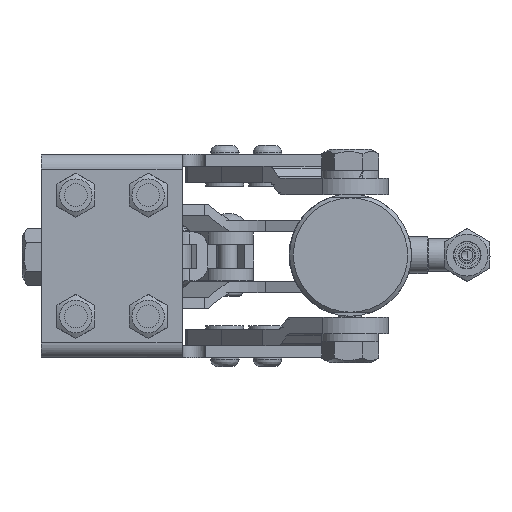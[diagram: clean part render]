
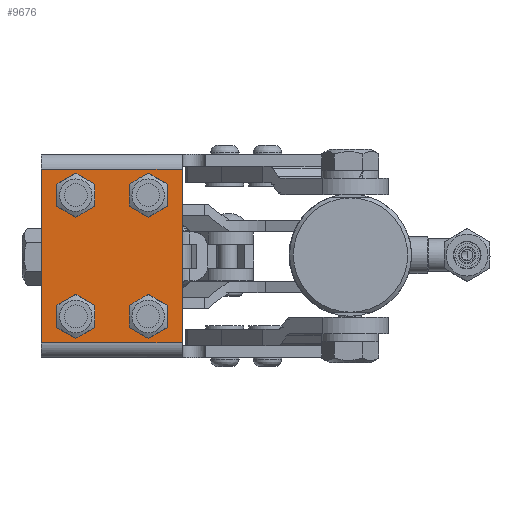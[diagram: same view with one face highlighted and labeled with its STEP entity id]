
A CAD part, front view. The second image highlights one B-rep face of the part: STEP entity #9676.
In plain terms, the highlighted planar face has unit normal (0, -1, 0).
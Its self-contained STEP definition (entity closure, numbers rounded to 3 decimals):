
#583=FACE_BOUND('',#2161,.T.);
#584=FACE_BOUND('',#2162,.T.);
#585=FACE_BOUND('',#2163,.T.);
#586=FACE_BOUND('',#2164,.T.);
#729=CIRCLE('',#10773,3.5);
#731=CIRCLE('',#10776,3.5);
#733=CIRCLE('',#10779,3.5);
#735=CIRCLE('',#10782,3.5);
#1256=PLANE('',#10855);
#1580=FACE_OUTER_BOUND('',#2160,.T.);
#2160=EDGE_LOOP('',(#7048,#7049,#7050,#7051));
#2161=EDGE_LOOP('',(#7052));
#2162=EDGE_LOOP('',(#7053));
#2163=EDGE_LOOP('',(#7054));
#2164=EDGE_LOOP('',(#7055));
#2814=LINE('',#15228,#3548);
#2816=LINE('',#15234,#3550);
#2821=LINE('',#15262,#3555);
#2823=LINE('',#15270,#3557);
#3548=VECTOR('',#12071,10.);
#3550=VECTOR('',#12077,10.);
#3555=VECTOR('',#12098,10.);
#3557=VECTOR('',#12102,10.);
#4336=VERTEX_POINT('',#15209);
#4341=VERTEX_POINT('',#15226);
#4343=VERTEX_POINT('',#15232);
#4352=VERTEX_POINT('',#15260);
#4372=VERTEX_POINT('',#15313);
#4374=VERTEX_POINT('',#15319);
#4376=VERTEX_POINT('',#15325);
#4378=VERTEX_POINT('',#15331);
#5291=EDGE_CURVE('',#4341,#4336,#2814,.T.);
#5294=EDGE_CURVE('',#4341,#4343,#2816,.T.);
#5305=EDGE_CURVE('',#4352,#4343,#2821,.T.);
#5308=EDGE_CURVE('',#4336,#4352,#2823,.T.);
#5331=EDGE_CURVE('',#4372,#4372,#729,.T.);
#5334=EDGE_CURVE('',#4374,#4374,#731,.T.);
#5337=EDGE_CURVE('',#4376,#4376,#733,.T.);
#5340=EDGE_CURVE('',#4378,#4378,#735,.T.);
#7048=ORIENTED_EDGE('',*,*,#5291,.F.);
#7049=ORIENTED_EDGE('',*,*,#5294,.T.);
#7050=ORIENTED_EDGE('',*,*,#5305,.F.);
#7051=ORIENTED_EDGE('',*,*,#5308,.F.);
#7052=ORIENTED_EDGE('',*,*,#5331,.T.);
#7053=ORIENTED_EDGE('',*,*,#5334,.T.);
#7054=ORIENTED_EDGE('',*,*,#5337,.T.);
#7055=ORIENTED_EDGE('',*,*,#5340,.T.);
#9676=ADVANCED_FACE('',(#1580,#583,#584,#585,#586),#1256,.T.);
#10773=AXIS2_PLACEMENT_3D('',#15315,#12140,#12141);
#10776=AXIS2_PLACEMENT_3D('',#15321,#12147,#12148);
#10779=AXIS2_PLACEMENT_3D('',#15327,#12154,#12155);
#10782=AXIS2_PLACEMENT_3D('',#15333,#12161,#12162);
#10855=AXIS2_PLACEMENT_3D('',#15521,#12373,#12374);
#12071=DIRECTION('',(-1.,0.,0.));
#12077=DIRECTION('',(0.,0.,1.));
#12098=DIRECTION('',(1.,0.,0.));
#12102=DIRECTION('',(0.,0.,1.));
#12140=DIRECTION('center_axis',(0.,1.,0.));
#12141=DIRECTION('ref_axis',(-1.,0.,0.));
#12147=DIRECTION('center_axis',(0.,1.,0.));
#12148=DIRECTION('ref_axis',(-1.,0.,0.));
#12154=DIRECTION('center_axis',(0.,1.,0.));
#12155=DIRECTION('ref_axis',(-1.,0.,0.));
#12161=DIRECTION('center_axis',(0.,1.,0.));
#12162=DIRECTION('ref_axis',(-1.,0.,0.));
#12373=DIRECTION('center_axis',(0.,-1.,0.));
#12374=DIRECTION('ref_axis',(1.,0.,0.));
#15209=CARTESIAN_POINT('',(0.,0.,-46.3));
#15226=CARTESIAN_POINT('',(36.9,0.,-46.3));
#15228=CARTESIAN_POINT('',(19.103,0.,-46.3));
#15232=CARTESIAN_POINT('',(36.9,0.,-0.8));
#15234=CARTESIAN_POINT('',(36.9,0.,0.));
#15260=CARTESIAN_POINT('',(0.,0.,-0.8));
#15262=CARTESIAN_POINT('',(19.103,0.,-0.8));
#15270=CARTESIAN_POINT('',(0.,0.,0.));
#15313=CARTESIAN_POINT('',(12.5,0.,-7.6));
#15315=CARTESIAN_POINT('Origin',(9.,0.,-7.6));
#15319=CARTESIAN_POINT('',(12.5,0.,-39.4));
#15321=CARTESIAN_POINT('Origin',(9.,0.,-39.4));
#15325=CARTESIAN_POINT('',(31.5,0.,-39.4));
#15327=CARTESIAN_POINT('Origin',(28.,0.,-39.4));
#15331=CARTESIAN_POINT('',(31.5,0.,-7.6));
#15333=CARTESIAN_POINT('Origin',(28.,0.,-7.6));
#15521=CARTESIAN_POINT('Origin',(0.,0.,0.));
